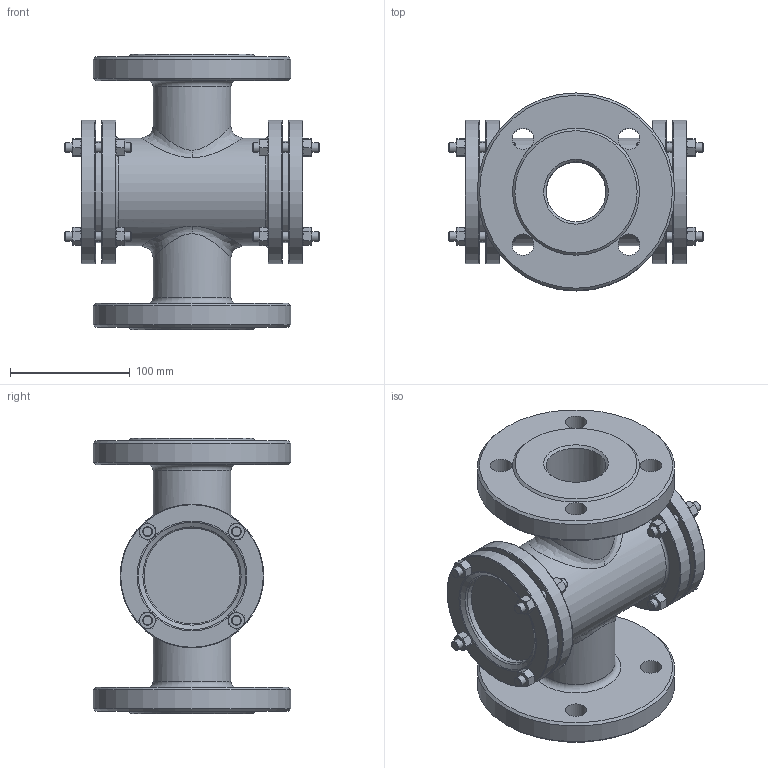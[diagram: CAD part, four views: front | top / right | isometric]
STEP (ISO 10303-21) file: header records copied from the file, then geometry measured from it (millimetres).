
FILE_DESCRIPTION(('STEP AP242'), '1');
FILE_NAME('SG2-32S-F Ñòåêëî ñìîòðîâîå DN.ru Äó50 Ðó40', '', ('UNSPECIFIED'), ('UNSPECIFIED'), 'C3D Converter', 'C3D Toolkit', '');
FILE_SCHEMA(('AP242_MANAGED_MODEL_BASED_3D_ENGINEERING_MIM_LF { 1 0 10303 442 1 1 4 }'));
Length unit declared in the file: millimetre
Products named in the file (1): SG2-32S-F
Bounding box: 212.5 x 165 x 230 mm (x, y, z)
Volume: 1465295.6 mm3; surface area: 302586.3 mm2
Topology: 1 solids, 1 shells, 503 faces, 1176 edges, 721 vertices
Faces by surface type: cone 218, plane 183, cylinder 55, bspline 31, torus 16
Full cylindrical faces by diameter (mm): 8 x24, 18 x8, 50 x2, 65 x2, 80 x3, 85 x2, 90 x1, 120 x4, 165 x2
Entity records: 29720 total; most frequent: CARTESIAN_POINT 17672, ORIENTED_EDGE 2158, DIRECTION 1938, EDGE_CURVE 1079, AXIS2_PLACEMENT_3D 876, VERTEX_POINT 715, EDGE_LOOP 674, FACE_BOUND 562
